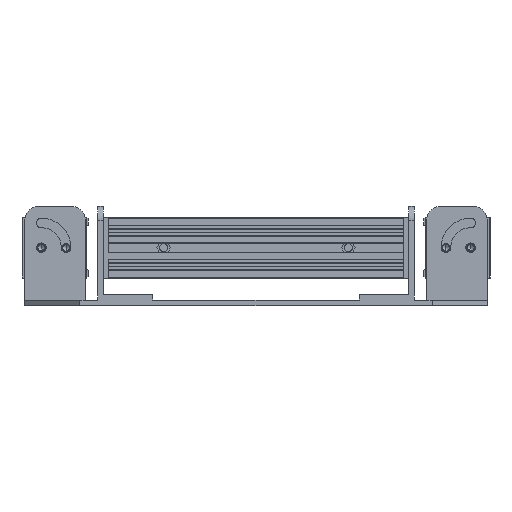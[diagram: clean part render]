
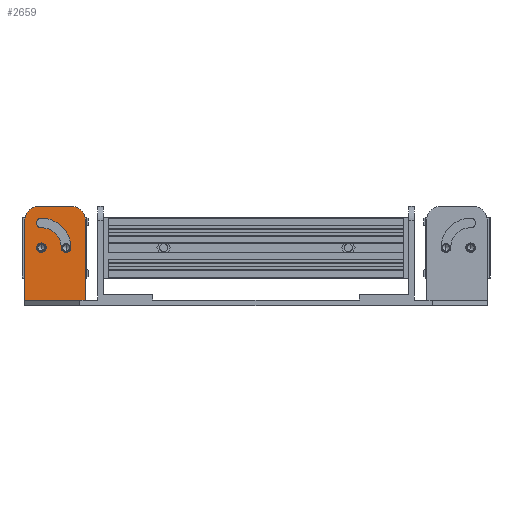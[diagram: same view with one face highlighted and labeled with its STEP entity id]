
A CAD part, front view. The second image highlights one B-rep face of the part: STEP entity #2659.
In plain terms, the highlighted planar face has unit normal (0, -1, 0).
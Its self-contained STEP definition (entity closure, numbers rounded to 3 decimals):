
#309=DIRECTION('',(1.,0.,0.));
#310=VECTOR('',#309,22.);
#311=CARTESIAN_POINT('',(-84.,-57.5,2.));
#312=LINE('',#311,#310);
#369=DIRECTION('',(0.,0.,-1.));
#370=VECTOR('',#369,29.);
#371=CARTESIAN_POINT('',(-62.,-57.5,31.));
#372=LINE('',#371,#370);
#373=CARTESIAN_POINT('',(-78.,-57.5,21.));
#374=DIRECTION('',(0.,1.,0.));
#375=DIRECTION('',(-1.,0.,0.));
#376=AXIS2_PLACEMENT_3D('',#373,#374,#375);
#378=CARTESIAN_POINT('',(-78.,-57.5,21.));
#379=DIRECTION('',(0.,1.,0.));
#380=DIRECTION('',(1.,0.,0.));
#381=AXIS2_PLACEMENT_3D('',#378,#379,#380);
#383=CARTESIAN_POINT('',(-78.,-57.5,21.));
#384=DIRECTION('',(0.,1.,0.));
#385=DIRECTION('',(0.,0.,1.));
#386=AXIS2_PLACEMENT_3D('',#383,#384,#385);
#388=CARTESIAN_POINT('',(-78.,-57.5,30.));
#389=DIRECTION('',(0.,1.,0.));
#390=DIRECTION('',(0.,0.,-1.));
#391=AXIS2_PLACEMENT_3D('',#388,#389,#390);
#393=CARTESIAN_POINT('',(-78.,-57.5,21.));
#394=DIRECTION('',(0.,1.,0.));
#395=DIRECTION('',(0.,0.,1.));
#396=AXIS2_PLACEMENT_3D('',#393,#394,#395);
#398=CARTESIAN_POINT('',(-69.,-57.5,21.));
#399=DIRECTION('',(0.,1.,0.));
#400=DIRECTION('',(1.,0.,0.));
#401=AXIS2_PLACEMENT_3D('',#398,#399,#400);
#403=CARTESIAN_POINT('',(-67.,-57.5,31.));
#404=DIRECTION('',(0.,-1.,0.));
#405=DIRECTION('',(1.,0.,0.));
#406=AXIS2_PLACEMENT_3D('',#403,#404,#405);
#408=CARTESIAN_POINT('',(-79.,-57.5,31.));
#409=DIRECTION('',(0.,-1.,0.));
#410=DIRECTION('',(0.,0.,1.));
#411=AXIS2_PLACEMENT_3D('',#408,#409,#410);
#413=DIRECTION('',(1.,0.,0.));
#414=VECTOR('',#413,12.);
#415=CARTESIAN_POINT('',(-79.,-57.5,36.));
#416=LINE('',#415,#414);
#613=DIRECTION('',(0.,0.,-1.));
#614=VECTOR('',#613,29.);
#615=CARTESIAN_POINT('',(-84.,-57.5,31.));
#616=LINE('',#615,#614);
#1977=CARTESIAN_POINT('',(-62.,-57.5,2.));
#1979=VERTEX_POINT('',#1977);
#1981=CARTESIAN_POINT('',(-84.,-57.5,2.));
#1982=VERTEX_POINT('',#1981);
#2105=CARTESIAN_POINT('',(-79.75,-57.5,21.));
#2106=CARTESIAN_POINT('',(-76.25,-57.5,21.));
#2107=VERTEX_POINT('',#2105);
#2108=VERTEX_POINT('',#2106);
#2109=CARTESIAN_POINT('',(-78.,-57.5,31.75));
#2110=CARTESIAN_POINT('',(-67.25,-57.5,21.));
#2111=VERTEX_POINT('',#2109);
#2112=VERTEX_POINT('',#2110);
#2113=CARTESIAN_POINT('',(-70.75,-57.5,21.));
#2114=VERTEX_POINT('',#2113);
#2115=CARTESIAN_POINT('',(-78.,-57.5,28.25));
#2116=VERTEX_POINT('',#2115);
#2129=CARTESIAN_POINT('',(-62.,-57.5,31.));
#2130=CARTESIAN_POINT('',(-67.,-57.5,36.));
#2131=VERTEX_POINT('',#2129);
#2132=VERTEX_POINT('',#2130);
#2141=CARTESIAN_POINT('',(-79.,-57.5,36.));
#2142=VERTEX_POINT('',#2141);
#2143=CARTESIAN_POINT('',(-84.,-57.5,31.));
#2144=VERTEX_POINT('',#2143);
#2627=CARTESIAN_POINT('',(-84.,-57.5,36.));
#2628=DIRECTION('',(0.,1.,0.));
#2629=DIRECTION('',(0.,0.,-1.));
#2630=AXIS2_PLACEMENT_3D('',#2627,#2628,#2629);
#2631=PLANE('',#2630);
#2632=ORIENTED_EDGE('',*,*,#2617,.F.);
#2633=ORIENTED_EDGE('',*,*,#2607,.T.);
#2634=ORIENTED_EDGE('',*,*,#2426,.F.);
#2636=ORIENTED_EDGE('',*,*,#2635,.F.);
#2638=ORIENTED_EDGE('',*,*,#2637,.F.);
#2640=ORIENTED_EDGE('',*,*,#2639,.T.);
#2641=EDGE_LOOP('',(#2632,#2633,#2634,#2636,#2638,#2640));
#2642=FACE_OUTER_BOUND('',#2641,.F.);
#2644=ORIENTED_EDGE('',*,*,#2643,.F.);
#2646=ORIENTED_EDGE('',*,*,#2645,.F.);
#2647=EDGE_LOOP('',(#2644,#2646));
#2648=FACE_BOUND('',#2647,.F.);
#2650=ORIENTED_EDGE('',*,*,#2649,.F.);
#2652=ORIENTED_EDGE('',*,*,#2651,.F.);
#2654=ORIENTED_EDGE('',*,*,#2653,.T.);
#2656=ORIENTED_EDGE('',*,*,#2655,.F.);
#2657=EDGE_LOOP('',(#2650,#2652,#2654,#2656));
#2658=FACE_BOUND('',#2657,.F.);
#377=CIRCLE('',#376,1.75);
#382=CIRCLE('',#381,1.75);
#387=CIRCLE('',#386,10.75);
#392=CIRCLE('',#391,1.75);
#397=CIRCLE('',#396,7.25);
#402=CIRCLE('',#401,1.75);
#407=CIRCLE('',#406,5.);
#412=CIRCLE('',#411,5.);
#2426=EDGE_CURVE('',#1982,#1979,#312,.T.);
#2607=EDGE_CURVE('',#2131,#1979,#372,.T.);
#2617=EDGE_CURVE('',#2131,#2132,#407,.T.);
#2635=EDGE_CURVE('',#2144,#1982,#616,.T.);
#2637=EDGE_CURVE('',#2142,#2144,#412,.T.);
#2639=EDGE_CURVE('',#2142,#2132,#416,.T.);
#2643=EDGE_CURVE('',#2107,#2108,#377,.T.);
#2645=EDGE_CURVE('',#2108,#2107,#382,.T.);
#2649=EDGE_CURVE('',#2111,#2112,#387,.T.);
#2651=EDGE_CURVE('',#2116,#2111,#392,.T.);
#2653=EDGE_CURVE('',#2116,#2114,#397,.T.);
#2655=EDGE_CURVE('',#2112,#2114,#402,.T.);
#2659=ADVANCED_FACE('',(#2642,#2648,#2658),#2631,.F.);
